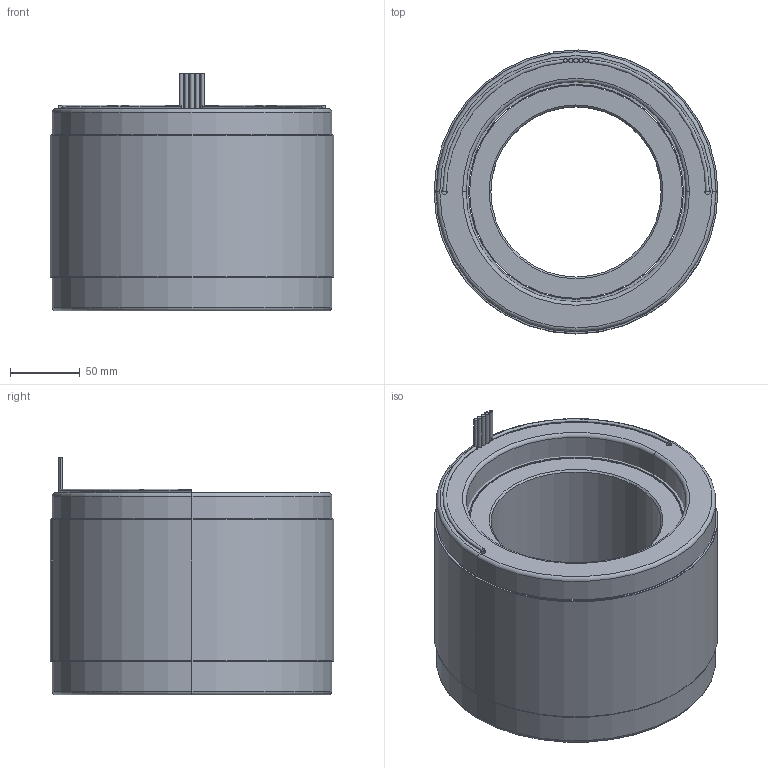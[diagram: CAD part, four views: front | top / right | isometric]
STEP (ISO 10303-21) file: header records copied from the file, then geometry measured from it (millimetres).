
FILE_DESCRIPTION (( 'STEP AP214' ), '1' );
FILE_NAME ('6100337-04.STEP', '2019-10-23T23:07:02', ( '' ), ( '' ), 'SwSTEP 2.0', 'SolidWorks 2016', '' );
FILE_SCHEMA (( 'AUTOMOTIVE_DESIGN' ));
Length unit declared in the file: millimetre
Products named in the file (11): 4150167-XX_4150167-04; 4400090-00; 4450180-XX_4450180-04; 4500540-XX_4500540-04; 4250361-XX_4250361-04; COMP4500540-XX(COIL)_COMP4500540-04(COIL); 4600545-00; 6100337-04
Assembly tree (10 placements, depth 4):
  6100337-04
    4250361-XX_4250361-04
      4150167-XX_4150167-04
    4500540-XX_4500540-04
      4450180-XX_4450180-04
        4450180-XX_4450180-04
        4400090-00
        4400090-00
        4600545-00
        4600545-00
      COMP4500540-XX(COIL)_COMP4500540-04(COIL)
Bounding box: 203.2 x 203.19 x 170.18 mm (x, y, z)
Volume: 3817782.3 mm3; surface area: 538346.7 mm2
Topology: 14 solids, 14 shells, 105 faces, 213 edges, 138 vertices
Faces by surface type: cylinder 59, plane 30, torus 12, cone 4
Entity records: 3320 total; most frequent: DIRECTION 605, CARTESIAN_POINT 472, ORIENTED_EDGE 426, AXIS2_PLACEMENT_3D 271, EDGE_CURVE 213, CIRCLE 150, VERTEX_POINT 138, EDGE_LOOP 121
